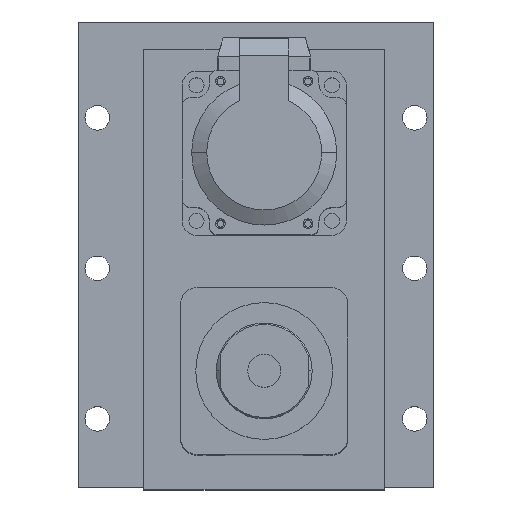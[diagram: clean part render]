
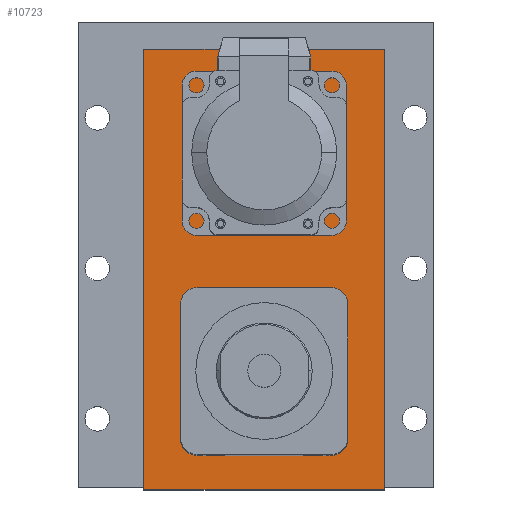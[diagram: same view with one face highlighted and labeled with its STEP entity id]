
A CAD part, top view. The second image highlights one B-rep face of the part: STEP entity #10723.
In plain terms, the highlighted planar face has unit normal (0, 0, 1).
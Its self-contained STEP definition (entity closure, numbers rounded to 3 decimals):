
#513 = ORIENTED_EDGE ( 'NONE', *, *, #9838, .F. ) ;
#626 = EDGE_CURVE ( 'NONE', #10952, #13303, #21002, .T. ) ;
#877 = VERTEX_POINT ( 'NONE', #7841 ) ;
#914 = DIRECTION ( 'NONE',  ( -1., 0., 0. ) ) ;
#1145 = EDGE_LOOP ( 'NONE', ( #513, #12577, #17644, #18069 ) ) ;
#1208 = CARTESIAN_POINT ( 'NONE',  ( 30.5, -24.5, -31. ) ) ;
#1326 = EDGE_CURVE ( 'NONE', #3273, #877, #3505, .T. ) ;
#1340 = EDGE_CURVE ( 'NONE', #18004, #19648, #24254, .T. ) ;
#1645 = LINE ( 'NONE', #5479, #18848 ) ;
#1783 = LINE ( 'NONE', #11370, #19278 ) ;
#1893 = ORIENTED_EDGE ( 'NONE', *, *, #6528, .F. ) ;
#2109 = DIRECTION ( 'NONE',  ( 0., -1., 0. ) ) ;
#2412 = CARTESIAN_POINT ( 'NONE',  ( 0., 0., -31. ) ) ;
#2430 = AXIS2_PLACEMENT_3D ( 'NONE', #4843, #18066, #19968 ) ;
#2454 = EDGE_CURVE ( 'NONE', #13303, #10619, #1645, .T. ) ;
#2616 = ORIENTED_EDGE ( 'NONE', *, *, #13093, .T. ) ;
#2928 = CARTESIAN_POINT ( 'NONE',  ( -24.5, -24.5, -31. ) ) ;
#3273 = VERTEX_POINT ( 'NONE', #8410 ) ;
#3297 = CARTESIAN_POINT ( 'NONE',  ( 0., 80., -31. ) ) ;
#3486 = CARTESIAN_POINT ( 'NONE',  ( 24.5, 30.5, -31. ) ) ;
#3505 = LINE ( 'NONE', #3486, #13899 ) ;
#3506 = VECTOR ( 'NONE', #4453, 1000. ) ;
#3858 = CARTESIAN_POINT ( 'NONE',  ( 24.5, 24.5, -31. ) ) ;
#4347 = CARTESIAN_POINT ( 'NONE',  ( 15.796, 80., -31. ) ) ;
#4370 = VECTOR ( 'NONE', #17880, 1000. ) ;
#4406 = AXIS2_PLACEMENT_3D ( 'NONE', #9398, #20608, #22594 ) ;
#4453 = DIRECTION ( 'NONE',  ( -1., 0., 0. ) ) ;
#4768 = CARTESIAN_POINT ( 'NONE',  ( 24.5, -30.5, -31. ) ) ;
#4843 = CARTESIAN_POINT ( 'NONE',  ( -24.5, 24.5, -31. ) ) ;
#4900 = ORIENTED_EDGE ( 'NONE', *, *, #6673, .F. ) ;
#5372 = CIRCLE ( 'NONE', #9904, 6. ) ;
#5479 = CARTESIAN_POINT ( 'NONE',  ( 44., 118., -31. ) ) ;
#5680 = CIRCLE ( 'NONE', #15835, 6. ) ;
#5751 = VECTOR ( 'NONE', #914, 1000. ) ;
#5920 = CARTESIAN_POINT ( 'NONE',  ( -15.796, 80., -31. ) ) ;
#5951 = FACE_BOUND ( 'NONE', #19658, .T. ) ;
#6041 = CARTESIAN_POINT ( 'NONE',  ( 44., -43., -31. ) ) ;
#6528 = EDGE_CURVE ( 'NONE', #15632, #15256, #18580, .T. ) ;
#6608 = CARTESIAN_POINT ( 'NONE',  ( -30.5, -24.5, -31. ) ) ;
#6673 = EDGE_CURVE ( 'NONE', #15256, #15632, #18150, .T. ) ;
#6840 = ORIENTED_EDGE ( 'NONE', *, *, #1340, .T. ) ;
#7702 = FACE_BOUND ( 'NONE', #20701, .T. ) ;
#7841 = CARTESIAN_POINT ( 'NONE',  ( 24.5, 30.5, -31. ) ) ;
#7852 = DIRECTION ( 'NONE',  ( 0., 0., -1. ) ) ;
#8388 = VECTOR ( 'NONE', #13500, 1000. ) ;
#8410 = CARTESIAN_POINT ( 'NONE',  ( -24.5, 30.5, -31. ) ) ;
#8435 = EDGE_CURVE ( 'NONE', #19648, #14782, #14362, .T. ) ;
#9384 = DIRECTION ( 'NONE',  ( 1., 0., 0. ) ) ;
#9398 = CARTESIAN_POINT ( 'NONE',  ( 24.5, -24.5, -31. ) ) ;
#9505 = VECTOR ( 'NONE', #11862, 1000. ) ;
#9838 = EDGE_CURVE ( 'NONE', #10619, #19530, #1783, .T. ) ;
#9904 = AXIS2_PLACEMENT_3D ( 'NONE', #2928, #10436, #16277 ) ;
#10206 = ORIENTED_EDGE ( 'NONE', *, *, #8435, .T. ) ;
#10353 = EDGE_CURVE ( 'NONE', #14782, #12056, #5372, .T. ) ;
#10436 = DIRECTION ( 'NONE',  ( 0., 0., -1. ) ) ;
#10454 = CARTESIAN_POINT ( 'NONE',  ( 30.5, 24.5, -31. ) ) ;
#10489 = CARTESIAN_POINT ( 'NONE',  ( -44., -43., -31. ) ) ;
#10513 = ORIENTED_EDGE ( 'NONE', *, *, #15350, .T. ) ;
#10619 = VERTEX_POINT ( 'NONE', #17177 ) ;
#10723 = ADVANCED_FACE ( 'NONE', ( #7702, #5951, #22499 ), #17421, .T. ) ;
#10952 = VERTEX_POINT ( 'NONE', #10489 ) ;
#11318 = DIRECTION ( 'NONE',  ( 1., 0., 0. ) ) ;
#11370 = CARTESIAN_POINT ( 'NONE',  ( 44., -43., -31. ) ) ;
#11862 = DIRECTION ( 'NONE',  ( 0., 1., 0. ) ) ;
#11968 = VERTEX_POINT ( 'NONE', #21247 ) ;
#12007 = CARTESIAN_POINT ( 'NONE',  ( -24.5, -30.5, -31. ) ) ;
#12056 = VERTEX_POINT ( 'NONE', #6608 ) ;
#12460 = LINE ( 'NONE', #6041, #3506 ) ;
#12577 = ORIENTED_EDGE ( 'NONE', *, *, #2454, .F. ) ;
#13093 = EDGE_CURVE ( 'NONE', #877, #22538, #5680, .T. ) ;
#13129 = DIRECTION ( 'NONE',  ( 1., 0., 0. ) ) ;
#13205 = DIRECTION ( 'NONE',  ( 1., 0., 0. ) ) ;
#13303 = VERTEX_POINT ( 'NONE', #14139 ) ;
#13500 = DIRECTION ( 'NONE',  ( 0., -1., 0. ) ) ;
#13508 = AXIS2_PLACEMENT_3D ( 'NONE', #15073, #16958, #9384 ) ;
#13899 = VECTOR ( 'NONE', #11318, 1000. ) ;
#14139 = CARTESIAN_POINT ( 'NONE',  ( -44., 118., -31. ) ) ;
#14362 = LINE ( 'NONE', #4768, #5751 ) ;
#14480 = ORIENTED_EDGE ( 'NONE', *, *, #10353, .T. ) ;
#14782 = VERTEX_POINT ( 'NONE', #12007 ) ;
#14902 = AXIS2_PLACEMENT_3D ( 'NONE', #3297, #14915, #13129 ) ;
#14915 = DIRECTION ( 'NONE',  ( 0., 0., 1. ) ) ;
#15073 = CARTESIAN_POINT ( 'NONE',  ( 0., 80., -31. ) ) ;
#15200 = CARTESIAN_POINT ( 'NONE',  ( 44., -43., -31. ) ) ;
#15256 = VERTEX_POINT ( 'NONE', #5920 ) ;
#15350 = EDGE_CURVE ( 'NONE', #12056, #11968, #21242, .T. ) ;
#15632 = VERTEX_POINT ( 'NONE', #4347 ) ;
#15725 = EDGE_CURVE ( 'NONE', #11968, #3273, #24191, .T. ) ;
#15835 = AXIS2_PLACEMENT_3D ( 'NONE', #3858, #7852, #17102 ) ;
#15948 = AXIS2_PLACEMENT_3D ( 'NONE', #2412, #19390, #21298 ) ;
#16277 = DIRECTION ( 'NONE',  ( -1., 0., 0. ) ) ;
#16958 = DIRECTION ( 'NONE',  ( 0., 0., 1. ) ) ;
#17102 = DIRECTION ( 'NONE',  ( 1., 0., 0. ) ) ;
#17177 = CARTESIAN_POINT ( 'NONE',  ( 44., 118., -31. ) ) ;
#17421 = PLANE ( 'NONE',  #15948 ) ;
#17644 = ORIENTED_EDGE ( 'NONE', *, *, #626, .F. ) ;
#17720 = CARTESIAN_POINT ( 'NONE',  ( -30.5, -24.5, -31. ) ) ;
#17880 = DIRECTION ( 'NONE',  ( 0., 1., 0. ) ) ;
#18004 = VERTEX_POINT ( 'NONE', #1208 ) ;
#18066 = DIRECTION ( 'NONE',  ( 0., 0., -1. ) ) ;
#18069 = ORIENTED_EDGE ( 'NONE', *, *, #22921, .F. ) ;
#18150 = CIRCLE ( 'NONE', #13508, 15.796 ) ;
#18580 = CIRCLE ( 'NONE', #14902, 15.796 ) ;
#18848 = VECTOR ( 'NONE', #13205, 1000. ) ;
#19050 = ORIENTED_EDGE ( 'NONE', *, *, #20629, .T. ) ;
#19278 = VECTOR ( 'NONE', #2109, 1000. ) ;
#19377 = CARTESIAN_POINT ( 'NONE',  ( 24.5, -30.5, -31. ) ) ;
#19390 = DIRECTION ( 'NONE',  ( 0., 0., 1. ) ) ;
#19530 = VERTEX_POINT ( 'NONE', #15200 ) ;
#19631 = ORIENTED_EDGE ( 'NONE', *, *, #15725, .T. ) ;
#19648 = VERTEX_POINT ( 'NONE', #19377 ) ;
#19658 = EDGE_LOOP ( 'NONE', ( #10206, #14480, #10513, #19631, #23015, #2616, #19050, #6840 ) ) ;
#19968 = DIRECTION ( 'NONE',  ( 1., 0., 0. ) ) ;
#20608 = DIRECTION ( 'NONE',  ( 0., 0., -1. ) ) ;
#20629 = EDGE_CURVE ( 'NONE', #22538, #18004, #23175, .T. ) ;
#20701 = EDGE_LOOP ( 'NONE', ( #1893, #4900 ) ) ;
#21002 = LINE ( 'NONE', #24402, #9505 ) ;
#21242 = LINE ( 'NONE', #17720, #4370 ) ;
#21247 = CARTESIAN_POINT ( 'NONE',  ( -30.5, 24.5, -31. ) ) ;
#21298 = DIRECTION ( 'NONE',  ( 1., 0., 0. ) ) ;
#22499 = FACE_OUTER_BOUND ( 'NONE', #1145, .T. ) ;
#22538 = VERTEX_POINT ( 'NONE', #10454 ) ;
#22594 = DIRECTION ( 'NONE',  ( 1., 0., 0. ) ) ;
#22921 = EDGE_CURVE ( 'NONE', #19530, #10952, #12460, .T. ) ;
#22979 = CARTESIAN_POINT ( 'NONE',  ( 30.5, -24.5, -31. ) ) ;
#23015 = ORIENTED_EDGE ( 'NONE', *, *, #1326, .T. ) ;
#23175 = LINE ( 'NONE', #22979, #8388 ) ;
#24191 = CIRCLE ( 'NONE', #2430, 6. ) ;
#24254 = CIRCLE ( 'NONE', #4406, 6. ) ;
#24402 = CARTESIAN_POINT ( 'NONE',  ( -44., -43., -31. ) ) ;
